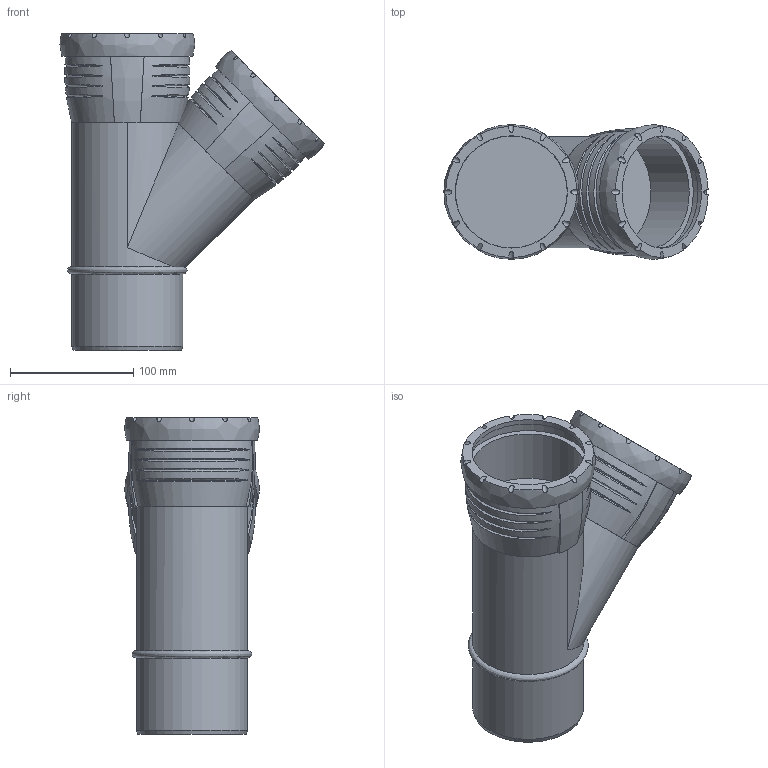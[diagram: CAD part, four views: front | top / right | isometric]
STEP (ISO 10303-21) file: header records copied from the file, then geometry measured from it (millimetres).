
FILE_DESCRIPTION(/* description */ (''),/* implementation_level */ '2;1');
FILE_NAME(/* name */ 'H:\Geberit-Teile\Export\Abzweig PP\stp\393434.stp',/* time_stamp */ '2017-02-13T13:17:36+01:00',/* author */ ('seihe2'),/* organization */ (''),/* preprocessor_version */ 'ST-DEVELOPER v15.2',/* originating_system */ 'Autodesk Inventor 2014',/* authorisation */ '');
FILE_SCHEMA (('AUTOMOTIVE_DESIGN { 1 0 10303 214 3 1 1 }'));
Length unit declared in the file: millimetre
Products named in the file (1): 393434
Bounding box: 214.58 x 109.47 x 257.2 mm (x, y, z)
Volume: 1686156.6 mm3; surface area: 228623.2 mm2
Topology: 5 solids, 5 shells, 108 faces, 250 edges, 176 vertices
Faces by surface type: bspline 47, cylinder 41, plane 19, cone 1
Full cylindrical faces by diameter (mm): 74.497 x2, 81.6 x1, 90.2 x3, 90.9 x2, 91.2 x2, 100.2 x2
Entity records: 7576 total; most frequent: CARTESIAN_POINT 5342, ORIENTED_EDGE 468, DIRECTION 340, EDGE_CURVE 233, VERTEX_POINT 173, AXIS2_PLACEMENT_3D 170, EDGE_LOOP 148, B_SPLINE_CURVE_WITH_KNOTS 122
